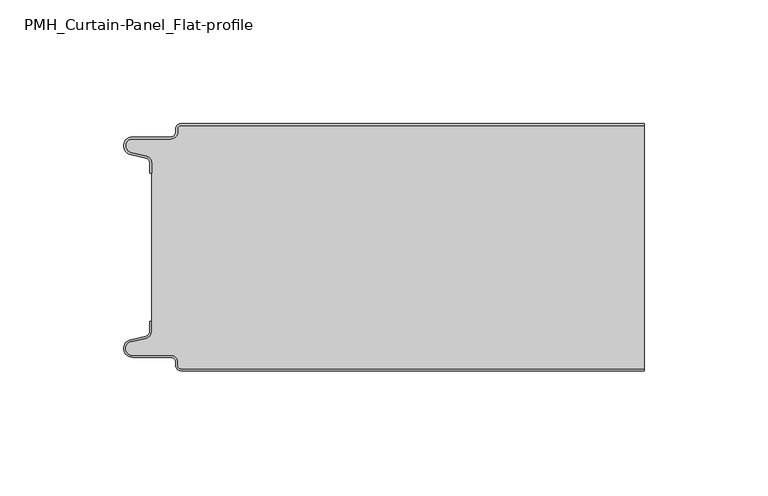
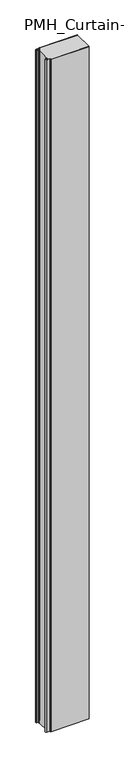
"""IFC4 building model written with IfcOpenShell, lengths in millimetres: plate geometry, PMH_Curtain-Panel_Flat-profile : ACH_PMH_Stone-wool-Panel_100M."""

from ifc_helpers import new_model, si_unit, point, frame_2d, origin, origin_with_axes, place, context, project, spatial, polyline, circle_curve, trimmed, segment, composite_curve, outline, extrude, source, transform, mapped, element, save


def pmh_curtain_panel_flat_profile_bc48084c(model_context):
    return source(origin(), model_context, "Body", "SweptSolid", [
        extrude(outline(composite_curve([segment(trimmed(circle_curve(frame_2d((-87.4, -2.0)), 1.2), [point((-87.4, -0.8))], [point((-88.6, -2.0))], True, "CARTESIAN"), True, "CONTINUOUS"), segment(polyline([(-88.6, -2.0), (-88.6, -3.4)]), True, "CONTINUOUS"), segment(trimmed(circle_curve(frame_2d((-91.4, -3.4)), 2.8), [point((-88.6, -3.4))], [point((-91.4, -6.2))], False, "CARTESIAN"), True, "CONTINUOUS"), segment(polyline([(-91.4, -6.2), (-106.9, -6.2)]), True, "CONTINUOUS"), segment(trimmed(circle_curve(frame_2d((-106.9, -9.0)), 2.8), [point((-106.9, -6.2))], [point((-107.529863, -11.7282362))], True, "CARTESIAN"), True, "CONTINUOUS"), segment(polyline([(-107.529863, -11.7282362), (-101.370137, -13.150321)]), True, "CONTINUOUS"), segment(trimmed(circle_curve(frame_2d((-102.0, -15.878557)), 2.8), [point((-101.370137, -13.150321))], [point((-99.2, -15.878557))], False, "CARTESIAN"), True, "CONTINUOUS"), segment(polyline([(-99.2, -15.878557), (-99.2, -20.0), (-100.0, -20.0), (-100.0, -15.878557)]), True, "CONTINUOUS"), segment(trimmed(circle_curve(frame_2d((-102.0, -15.878557)), 2.0), [point((-100.0, -15.878557))], [point((-101.5500978, -13.9298169))], True, "CARTESIAN"), True, "CONTINUOUS"), segment(polyline([(-101.5500978, -13.9298169), (-107.7098239, -12.507732)]), True, "CONTINUOUS"), segment(trimmed(circle_curve(frame_2d((-106.9, -9.0)), 3.6), [point((-107.7098239, -12.507732))], [point((-106.9, -5.4))], False, "CARTESIAN"), True, "CONTINUOUS"), segment(polyline([(-106.9, -5.4), (-91.4, -5.4)]), True, "CONTINUOUS"), segment(trimmed(circle_curve(frame_2d((-91.4, -3.4)), 2.0), [point((-91.4, -5.4))], [point((-89.4, -3.4))], True, "CARTESIAN"), True, "CONTINUOUS"), segment(polyline([(-89.4, -3.4), (-89.4, -2.0)]), True, "CONTINUOUS"), segment(trimmed(circle_curve(frame_2d((-87.4, -2.0)), 2.0), [point((-89.4, -2.0))], [point((-87.4, 0.0))], False, "CARTESIAN"), True, "CONTINUOUS"), segment(polyline([(-87.4, 0.0), (100.0, 0.0), (100.0, -0.8), (-87.4, -0.8)]), True, "CONTINUOUS")], self_intersect=False)), origin_with_axes(), (0.0, 0.0, 1.0), 3500.0),
        extrude(outline(composite_curve([segment(polyline([(-99.2, -84.1214426), (-99.2, -15.8785573)]), True, "CONTINUOUS"), segment(trimmed(circle_curve(frame_2d((-102.0, -15.8785573)), 2.8), [point((-99.2, -15.8785573))], [point((-101.370137, -13.1503212))], True, "CARTESIAN"), True, "CONTINUOUS"), segment(polyline([(-101.370137, -13.1503212), (-107.5298631, -11.7282362)]), True, "CONTINUOUS"), segment(trimmed(circle_curve(frame_2d((-106.9, -9.0)), 2.8), [point((-107.5298631, -11.7282362))], [point((-106.9, -6.2))], False, "CARTESIAN"), True, "CONTINUOUS"), segment(polyline([(-106.9, -6.2), (-91.4000001, -6.2)]), True, "CONTINUOUS"), segment(trimmed(circle_curve(frame_2d((-91.4000001, -3.4)), 2.8), [point((-91.4000001, -6.2))], [point((-88.6000001, -3.4))], True, "CARTESIAN"), True, "CONTINUOUS"), segment(polyline([(-88.6000001, -3.4), (-88.6000001, -2.0)]), True, "CONTINUOUS"), segment(trimmed(circle_curve(frame_2d((-87.4000001, -2.0)), 1.2), [point((-88.6000001, -2.0))], [point((-87.4000001, -0.8))], False, "CARTESIAN"), True, "CONTINUOUS"), segment(polyline([(-87.4000001, -0.8), (100.0, -0.8), (100.0, -99.2), (-87.4000001, -99.2)]), True, "CONTINUOUS"), segment(trimmed(circle_curve(frame_2d((-87.4000001, -98.0)), 1.2), [point((-87.4000001, -99.2))], [point((-88.6000001, -98.0))], False, "CARTESIAN"), True, "CONTINUOUS"), segment(polyline([(-88.6000001, -98.0), (-88.6000001, -96.6)]), True, "CONTINUOUS"), segment(trimmed(circle_curve(frame_2d((-91.4000001, -96.6)), 2.8), [point((-88.6000001, -96.6))], [point((-91.4000001, -93.8))], True, "CARTESIAN"), True, "CONTINUOUS"), segment(polyline([(-91.4000001, -93.8), (-106.9, -93.8)]), True, "CONTINUOUS"), segment(trimmed(circle_curve(frame_2d((-106.9, -91.0)), 2.8), [point((-106.9, -93.8))], [point((-107.5298631, -88.2717638))], False, "CARTESIAN"), True, "CONTINUOUS"), segment(polyline([(-107.5298631, -88.2717638), (-101.370137, -86.8496788)]), True, "CONTINUOUS"), segment(trimmed(circle_curve(frame_2d((-102.0, -84.1214426)), 2.8), [point((-101.370137, -86.8496788))], [point((-99.2, -84.1214426))], True, "CARTESIAN"), True, "CONTINUOUS")], self_intersect=False)), origin_with_axes(), (0.0, 0.0, 1.0), 3500.0),
        extrude(outline(composite_curve([segment(trimmed(circle_curve(frame_2d((-87.4, -98.0)), 2.0), [point((-87.4, -100.0))], [point((-89.4, -98.0))], False, "CARTESIAN"), True, "CONTINUOUS"), segment(polyline([(-89.4, -98.0), (-89.4, -96.6)]), True, "CONTINUOUS"), segment(trimmed(circle_curve(frame_2d((-91.4, -96.6)), 2.0), [point((-89.4, -96.6))], [point((-91.4, -94.6))], True, "CARTESIAN"), True, "CONTINUOUS"), segment(polyline([(-91.4, -94.6), (-106.9, -94.6)]), True, "CONTINUOUS"), segment(trimmed(circle_curve(frame_2d((-106.9, -91.0)), 3.6), [point((-106.9, -94.6))], [point((-107.7098239, -87.4922678))], False, "CARTESIAN"), True, "CONTINUOUS"), segment(polyline([(-107.7098239, -87.4922678), (-101.5500979, -86.070183)]), True, "CONTINUOUS"), segment(trimmed(circle_curve(frame_2d((-102.0, -84.121443)), 2.0), [point((-101.5500979, -86.070183))], [point((-100.0, -84.121443))], True, "CARTESIAN"), True, "CONTINUOUS"), segment(polyline([(-100.0, -84.121443), (-100.0, -80.0), (-99.2, -80.0), (-99.2, -84.121443)]), True, "CONTINUOUS"), segment(trimmed(circle_curve(frame_2d((-102.0, -84.121443)), 2.8), [point((-99.2, -84.121443))], [point((-101.370137, -86.8496792))], False, "CARTESIAN"), True, "CONTINUOUS"), segment(polyline([(-101.370137, -86.8496792), (-107.529863, -88.271764)]), True, "CONTINUOUS"), segment(trimmed(circle_curve(frame_2d((-106.9, -91.0)), 2.8), [point((-107.529863, -88.271764))], [point((-106.9, -93.8))], True, "CARTESIAN"), True, "CONTINUOUS"), segment(polyline([(-106.9, -93.8), (-91.4, -93.8)]), True, "CONTINUOUS"), segment(trimmed(circle_curve(frame_2d((-91.4, -96.6)), 2.8), [point((-91.4, -93.8))], [point((-88.6, -96.6))], False, "CARTESIAN"), True, "CONTINUOUS"), segment(polyline([(-88.6, -96.6), (-88.6, -98.0)]), True, "CONTINUOUS"), segment(trimmed(circle_curve(frame_2d((-87.4, -98.0)), 1.2), [point((-88.6, -98.0))], [point((-87.4, -99.2))], True, "CARTESIAN"), True, "CONTINUOUS"), segment(polyline([(-87.4, -99.2), (100.0, -99.2), (100.0, -100.0), (-87.4, -100.0)]), True, "CONTINUOUS")], self_intersect=False)), origin_with_axes(), (0.0, 0.0, 1.0), 3500.0),
    ])


if __name__ == "__main__":
    model = new_model("IFC4")
    model_context = context("Model", 3, world=origin())
    ifc_project = project(units=[si_unit("LENGTHUNIT", "METRE", prefix="MILLI")], contexts=[model_context])
    site = spatial("IfcSite", under=ifc_project)
    building = spatial("IfcBuilding", under=site)
    placement = place(None, origin())
    pmh_curtain_panel_flat_profile_shape = pmh_curtain_panel_flat_profile_bc48084c(model_context)
    element("IfcPlate", 1, ObjectType="PMH_Curtain-Panel_Flat-profile : ACH_PMH_Stone-wool-Panel_100M", at=placement, inside=building, context=model_context, shape_type="MappedRepresentation", body=[
        mapped(pmh_curtain_panel_flat_profile_shape, transform((0.0, 0.0, 0.0), x_axis=(1.0, 0.0, 0.0), y_axis=(0.0, 1.0, 0.0), z_axis=(0.0, 0.0, 1.0))),
    ])
    save(model, "model.ifc")
